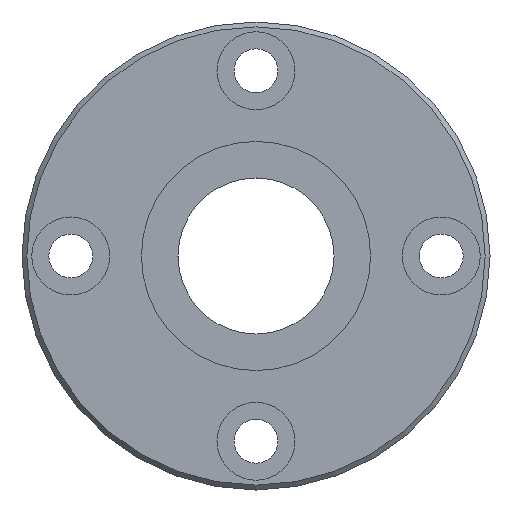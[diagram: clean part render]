
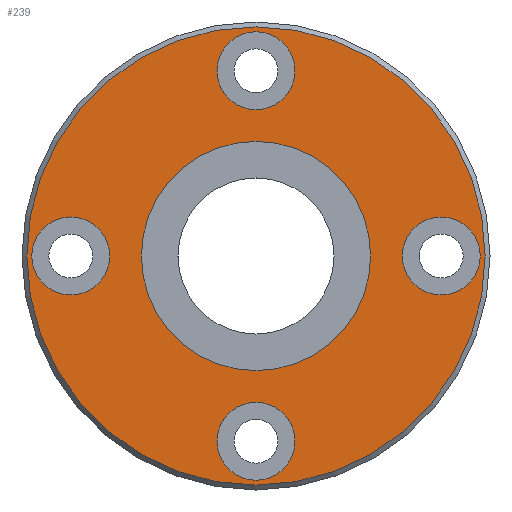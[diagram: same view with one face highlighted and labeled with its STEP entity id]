
A CAD part, left-side view. The second image highlights one B-rep face of the part: STEP entity #239.
In plain terms, the highlighted planar face has unit normal (-1, 0, 0).
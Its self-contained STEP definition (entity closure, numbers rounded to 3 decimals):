
#164=CARTESIAN_POINT('',(0.0,0.,23.5));
#165=VERTEX_POINT('',#164);
#166=CARTESIAN_POINT('',(0.0,0.0,0.0));
#167=DIRECTION('',(1.0,0.0,0.0));
#168=DIRECTION('',(0.0,0.0,-1.0));
#169=AXIS2_PLACEMENT_3D('',#166,#167,#168);
#170=CIRCLE('',#169,23.5);
#171=EDGE_CURVE('',#165,#165,#170,.T.);
#176=CARTESIAN_POINT('',(0.0,0.0,12.875));
#177=DIRECTION('',(-1.0,0.0,0.0));
#178=DIRECTION('',(0.0,0.0,1.0));
#179=AXIS2_PLACEMENT_3D('',#176,#177,#178);
#180=PLANE('',#179);
#181=ORIENTED_EDGE('',*,*,#171,.F.);
#182=EDGE_LOOP('',(#181));
#183=FACE_OUTER_BOUND('',#182,.T.);
#184=CARTESIAN_POINT('',(0.0,0.0,11.75));
#185=VERTEX_POINT('',#184);
#186=CARTESIAN_POINT('',(0.0,0.0,0.0));
#187=DIRECTION('',(-1.0,0.0,0.0));
#188=DIRECTION('',(0.0,0.0,1.0));
#189=AXIS2_PLACEMENT_3D('',#186,#187,#188);
#190=CIRCLE('',#189,11.75);
#191=EDGE_CURVE('',#185,#185,#190,.T.);
#192=ORIENTED_EDGE('',*,*,#191,.F.);
#193=EDGE_LOOP('',(#192));
#194=FACE_BOUND('',#193,.T.);
#195=CARTESIAN_POINT('',(0.0,23.,0.));
#196=VERTEX_POINT('',#195);
#197=CARTESIAN_POINT('',(0.0,19.0,0.));
#198=DIRECTION('',(1.0,0.0,0.0));
#199=DIRECTION('',(0.0,1.0,0.0));
#200=AXIS2_PLACEMENT_3D('',#197,#198,#199);
#201=CIRCLE('',#200,4.0);
#202=EDGE_CURVE('',#196,#196,#201,.T.);
#203=ORIENTED_EDGE('',*,*,#202,.T.);
#204=EDGE_LOOP('',(#203));
#205=FACE_BOUND('',#204,.T.);
#206=CARTESIAN_POINT('',(0.0,-15.0,0.));
#207=VERTEX_POINT('',#206);
#208=CARTESIAN_POINT('',(0.0,-19.0,0.));
#209=DIRECTION('',(1.0,0.0,0.0));
#210=DIRECTION('',(0.0,1.0,0.0));
#211=AXIS2_PLACEMENT_3D('',#208,#209,#210);
#212=CIRCLE('',#211,4.0);
#213=EDGE_CURVE('',#207,#207,#212,.T.);
#214=ORIENTED_EDGE('',*,*,#213,.T.);
#215=EDGE_LOOP('',(#214));
#216=FACE_BOUND('',#215,.T.);
#217=CARTESIAN_POINT('',(0.0,4.,19.0));
#218=VERTEX_POINT('',#217);
#219=CARTESIAN_POINT('',(0.0,0.,19.0));
#220=DIRECTION('',(1.0,0.0,0.0));
#221=DIRECTION('',(0.0,1.0,0.0));
#222=AXIS2_PLACEMENT_3D('',#219,#220,#221);
#223=CIRCLE('',#222,4.0);
#224=EDGE_CURVE('',#218,#218,#223,.T.);
#225=ORIENTED_EDGE('',*,*,#224,.T.);
#226=EDGE_LOOP('',(#225));
#227=FACE_BOUND('',#226,.T.);
#228=CARTESIAN_POINT('',(0.0,4.,-19.0));
#229=VERTEX_POINT('',#228);
#230=CARTESIAN_POINT('',(0.0,0.,-19.0));
#231=DIRECTION('',(1.0,0.0,0.0));
#232=DIRECTION('',(0.0,1.0,0.0));
#233=AXIS2_PLACEMENT_3D('',#230,#231,#232);
#234=CIRCLE('',#233,4.0);
#235=EDGE_CURVE('',#229,#229,#234,.T.);
#236=ORIENTED_EDGE('',*,*,#235,.T.);
#237=EDGE_LOOP('',(#236));
#238=FACE_BOUND('',#237,.T.);
#239=ADVANCED_FACE('',(#183,#194,#205,#216,#227,#238),#180,.T.);
